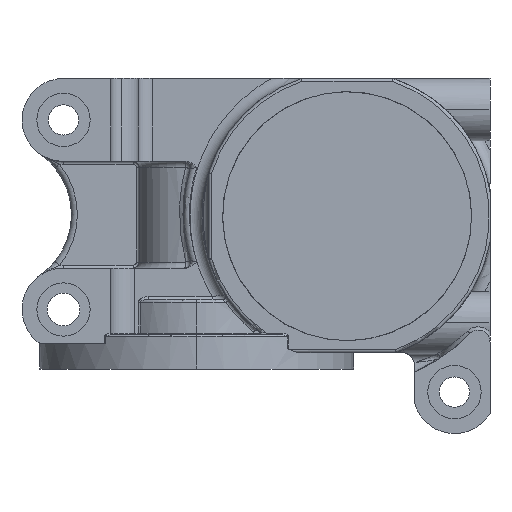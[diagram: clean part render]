
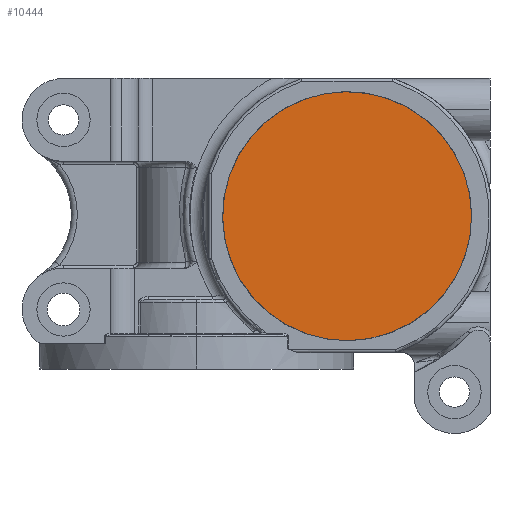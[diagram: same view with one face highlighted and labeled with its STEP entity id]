
A CAD part, left-side view. The second image highlights one B-rep face of the part: STEP entity #10444.
In plain terms, the highlighted planar face has unit normal (-1, 0, 0).
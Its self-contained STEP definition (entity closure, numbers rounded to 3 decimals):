
#2140 = VERTEX_POINT ( 'NONE', #36785 ) ;
#3196 = CARTESIAN_POINT ( 'NONE',  ( 21.417, 31.222, 140.081 ) ) ;
#8401 = EDGE_CURVE ( 'NONE', #2140, #8617, #36504, .T. ) ;
#8508 = DIRECTION ( 'NONE',  ( -1., 0., 0. ) ) ;
#8617 = VERTEX_POINT ( 'NONE', #17392 ) ;
#10306 = DIRECTION ( 'NONE',  ( -1., 0., 0. ) ) ;
#10444 = ADVANCED_FACE ( 'NONE', ( #16330 ), #26342, .T. ) ;
#10514 = CARTESIAN_POINT ( 'NONE',  ( 21.417, 31.222, 140.081 ) ) ;
#11272 = DIRECTION ( 'NONE',  ( 0., 0.199, 0.98 ) ) ;
#12791 = DIRECTION ( 'NONE',  ( -1., 0., 0. ) ) ;
#13693 = AXIS2_PLACEMENT_3D ( 'NONE', #10514, #8508, #11272 ) ;
#16330 = FACE_OUTER_BOUND ( 'NONE', #20709, .T. ) ;
#16695 = AXIS2_PLACEMENT_3D ( 'NONE', #19957, #10306, #38182 ) ;
#17392 = CARTESIAN_POINT ( 'NONE',  ( 21.417, 35.409, 160.677 ) ) ;
#18935 = EDGE_CURVE ( 'NONE', #8617, #2140, #29557, .T. ) ;
#19957 = CARTESIAN_POINT ( 'NONE',  ( 21.417, 31.222, 140.081 ) ) ;
#20709 = EDGE_LOOP ( 'NONE', ( #33465, #25595 ) ) ;
#21862 = DIRECTION ( 'NONE',  ( 0., 0.199, 0.98 ) ) ;
#25595 = ORIENTED_EDGE ( 'NONE', *, *, #18935, .T. ) ;
#26342 = PLANE ( 'NONE',  #13693 ) ;
#29557 = CIRCLE ( 'NONE', #16695, 21.018 ) ;
#33465 = ORIENTED_EDGE ( 'NONE', *, *, #8401, .T. ) ;
#36504 = CIRCLE ( 'NONE', #39696, 21.018 ) ;
#36785 = CARTESIAN_POINT ( 'NONE',  ( 21.417, 27.035, 119.485 ) ) ;
#38182 = DIRECTION ( 'NONE',  ( 0., 0.199, 0.98 ) ) ;
#39696 = AXIS2_PLACEMENT_3D ( 'NONE', #3196, #12791, #21862 ) ;
